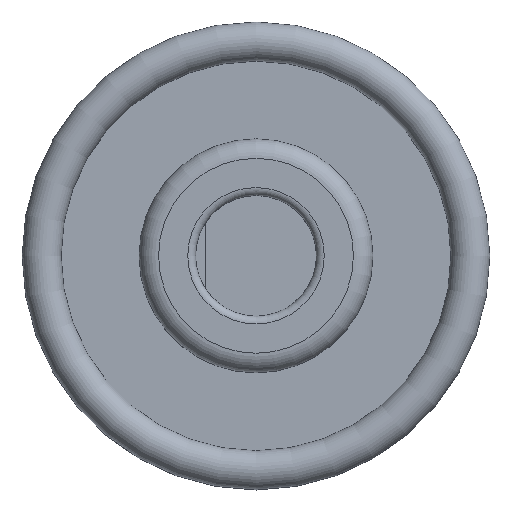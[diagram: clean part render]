
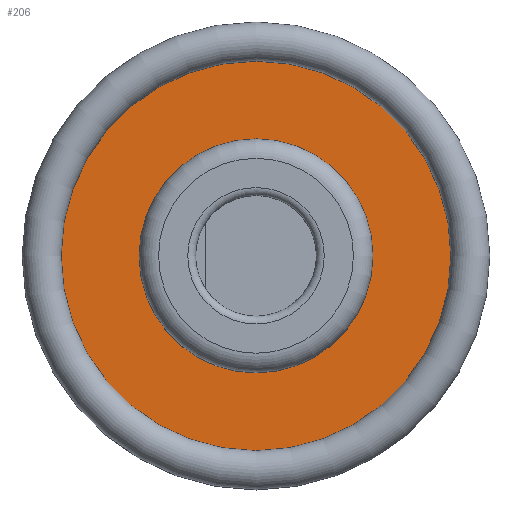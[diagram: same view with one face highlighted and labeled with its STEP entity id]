
A CAD part, top view. The second image highlights one B-rep face of the part: STEP entity #206.
In plain terms, the highlighted planar face has unit normal (0, 0, 1).
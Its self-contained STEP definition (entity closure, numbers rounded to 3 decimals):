
#20=FACE_BOUND('',#76,.T.);
#26=PLANE('',#253);
#60=FACE_OUTER_BOUND('',#75,.T.);
#75=EDGE_LOOP('',(#187));
#76=EDGE_LOOP('',(#188));
#91=CIRCLE('',#244,6.);
#93=CIRCLE('',#247,10.);
#108=VERTEX_POINT('',#374);
#110=VERTEX_POINT('',#380);
#130=EDGE_CURVE('',#108,#108,#91,.T.);
#133=EDGE_CURVE('',#110,#110,#93,.T.);
#187=ORIENTED_EDGE('',*,*,#133,.F.);
#188=ORIENTED_EDGE('',*,*,#130,.T.);
#206=ADVANCED_FACE('',(#60,#20),#26,.T.);
#244=AXIS2_PLACEMENT_3D('',#376,#308,#309);
#247=AXIS2_PLACEMENT_3D('',#382,#315,#316);
#253=AXIS2_PLACEMENT_3D('',#390,#329,#330);
#308=DIRECTION('center_axis',(0.,0.,-1.));
#309=DIRECTION('ref_axis',(1.,0.,0.));
#315=DIRECTION('center_axis',(0.,0.,-1.));
#316=DIRECTION('ref_axis',(1.,0.,0.));
#329=DIRECTION('center_axis',(0.,0.,1.));
#330=DIRECTION('ref_axis',(1.,0.,0.));
#374=CARTESIAN_POINT('',(-6.,0.,5.));
#376=CARTESIAN_POINT('Origin',(0.,0.,5.));
#380=CARTESIAN_POINT('',(-10.,0.,5.));
#382=CARTESIAN_POINT('Origin',(0.,0.,5.));
#390=CARTESIAN_POINT('Origin',(0.,0.,5.));
